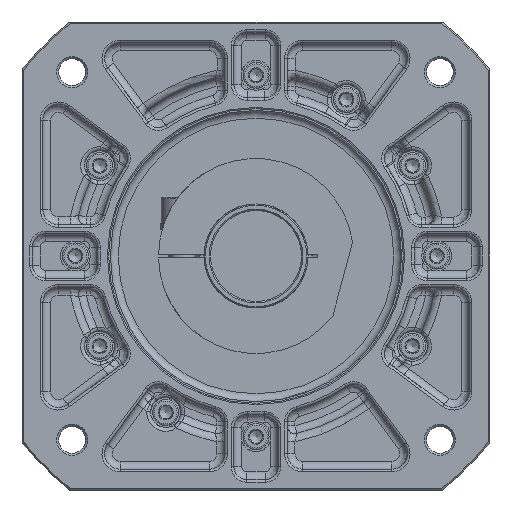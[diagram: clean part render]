
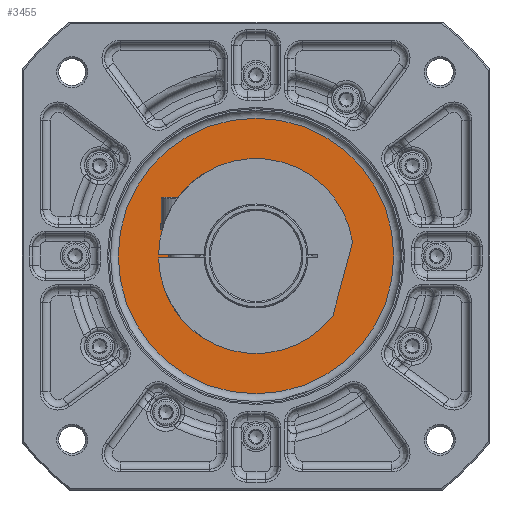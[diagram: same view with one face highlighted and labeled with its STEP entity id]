
A CAD part, left-side view. The second image highlights one B-rep face of the part: STEP entity #3455.
In plain terms, the highlighted planar face has unit normal (-1, 0, 0).
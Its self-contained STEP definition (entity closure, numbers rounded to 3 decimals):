
#3455=ADVANCED_FACE('',(#4713,#4714),#4412,.F.);
#4412=PLANE('',#14310);
#4713=FACE_BOUND('',#5152,.T.);
#4714=FACE_BOUND('',#5153,.T.);
#5152=EDGE_LOOP('',(#6336));
#5153=EDGE_LOOP('',(#6337));
#6336=ORIENTED_EDGE('',*,*,#11250,.T.);
#6337=ORIENTED_EDGE('',*,*,#11251,.T.);
#10102=VERTEX_POINT('',#20784);
#10103=VERTEX_POINT('',#20786);
#11250=EDGE_CURVE('',#10102,#10102,#13133,.T.);
#11251=EDGE_CURVE('',#10103,#10103,#13134,.T.);
#13133=CIRCLE('',#14308,53.);
#13134=CIRCLE('',#14309,30.);
#14308=AXIS2_PLACEMENT_3D('',#20783,#16258,#16259);
#14309=AXIS2_PLACEMENT_3D('',#20785,#16260,#16261);
#14310=AXIS2_PLACEMENT_3D('',#20787,#16262,#16263);
#16258=DIRECTION('',(-1.,0.,0.));
#16259=DIRECTION('',(0.,0.,1.));
#16260=DIRECTION('',(1.,0.,0.));
#16261=DIRECTION('',(0.,0.,-1.));
#16262=DIRECTION('',(1.,0.,0.));
#16263=DIRECTION('',(0.,0.,1.));
#20783=CARTESIAN_POINT('',(-226.5,0.,0.));
#20784=CARTESIAN_POINT('',(-226.5,0.,53.));
#20785=CARTESIAN_POINT('',(-226.5,0.,0.));
#20786=CARTESIAN_POINT('',(-226.5,0.,-30.));
#20787=CARTESIAN_POINT('',(-226.5,48.077,0.));
